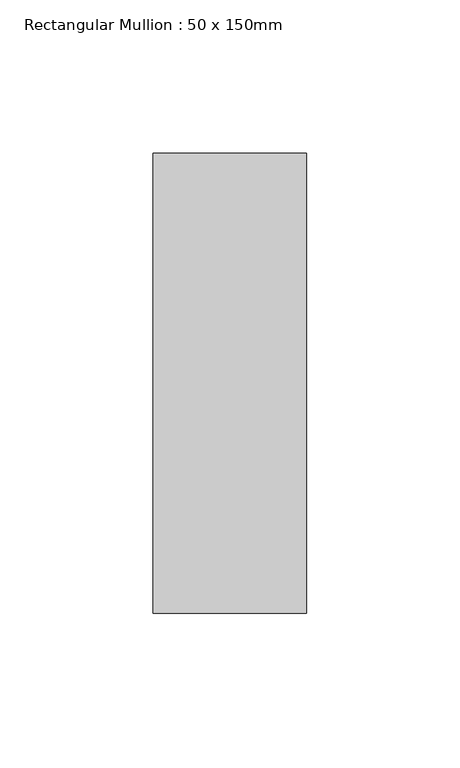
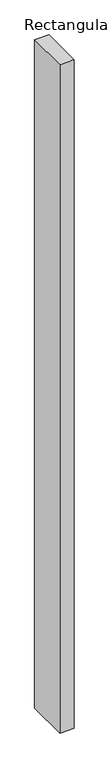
"""IFC4 building model written with IfcOpenShell, lengths in millimetres: member geometry, Rectangular Mullion : 50 x 150mm."""

from ifc_helpers import new_model, si_unit, frame, origin, place, context, project, spatial, polyline, outline, extrude, source, transform, mapped, element, save


def rectangular_mullion_50_x_150mm_c6ec9276(model_context):
    return source(origin(), model_context, "Body", "SweptSolid", [
        extrude(outline(polyline([(0.0, 75.0), (0.0, -75.0), (-50.0, -75.0), (-50.0, 75.0), (0.0, 75.0)])), frame((0.0, 0.0, -2438.7229913), z_axis=(0.0, 0.0, 1.0), x_axis=(1.0, 0.0, 0.0)), (0.0, 0.0, 1.0), 2438.7229913),
    ])


if __name__ == "__main__":
    model = new_model("IFC4")
    model_context = context("Model", 3, world=origin())
    ifc_project = project(units=[si_unit("LENGTHUNIT", "METRE", prefix="MILLI")], contexts=[model_context])
    site = spatial("IfcSite", under=ifc_project)
    building = spatial("IfcBuilding", under=site)
    placement = place(None, origin())
    rectangular_mullion_50_x_150mm_shape = rectangular_mullion_50_x_150mm_c6ec9276(model_context)
    element("IfcMember", 1, ObjectType="Rectangular Mullion : 50 x 150mm", at=placement, inside=building, context=model_context, shape_type="MappedRepresentation", body=[
        mapped(rectangular_mullion_50_x_150mm_shape, transform((0.0, 0.0, 0.0), x_axis=(1.0, 0.0, 0.0), y_axis=(0.0, 1.0, 0.0), z_axis=(0.0, 0.0, 1.0))),
    ])
    save(model, "model.ifc")
